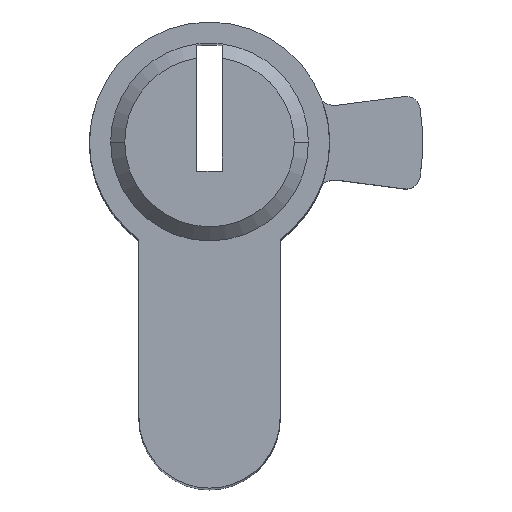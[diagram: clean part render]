
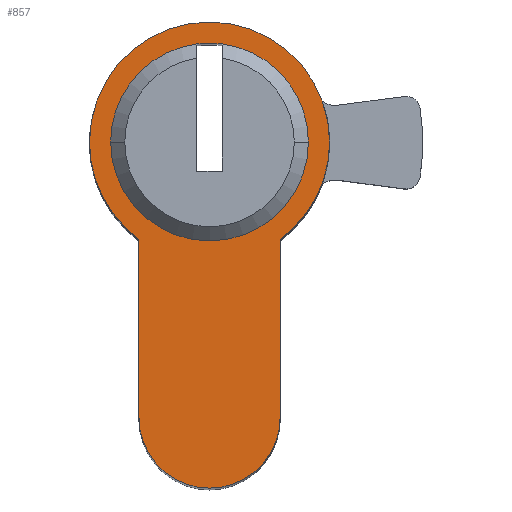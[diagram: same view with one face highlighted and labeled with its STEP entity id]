
A CAD part, top view. The second image highlights one B-rep face of the part: STEP entity #857.
In plain terms, the highlighted planar face has unit normal (0, 0, 1).
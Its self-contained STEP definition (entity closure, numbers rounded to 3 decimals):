
#6 = DIRECTION ( 'NONE',  ( 0., 0., 1. ) ) ;
#10 = LINE ( 'NONE', #448, #979 ) ;
#18 = DIRECTION ( 'NONE',  ( 0., 1., 0. ) ) ;
#34 = DIRECTION ( 'NONE',  ( 0., 0., 1. ) ) ;
#65 = VERTEX_POINT ( 'NONE', #1043 ) ;
#83 = DIRECTION ( 'NONE',  ( 0., 0., 1. ) ) ;
#97 = VERTEX_POINT ( 'NONE', #516 ) ;
#108 = CARTESIAN_POINT ( 'NONE',  ( 0., 0., 30. ) ) ;
#145 = CIRCLE ( 'NONE', #1197, 8.5 ) ;
#172 = CIRCLE ( 'NONE', #941, 7. ) ;
#201 = EDGE_CURVE ( 'NONE', #880, #1594, #1578, .T. ) ;
#222 = CARTESIAN_POINT ( 'NONE',  ( 5., -6.874, 30. ) ) ;
#235 = CARTESIAN_POINT ( 'NONE',  ( 0., 0., 30. ) ) ;
#247 = DIRECTION ( 'NONE',  ( 0., 0., 1. ) ) ;
#256 = CARTESIAN_POINT ( 'NONE',  ( 5., -19.5, 30. ) ) ;
#334 = ORIENTED_EDGE ( 'NONE', *, *, #542, .F. ) ;
#340 = ORIENTED_EDGE ( 'NONE', *, *, #555, .F. ) ;
#342 = ORIENTED_EDGE ( 'NONE', *, *, #1670, .T. ) ;
#387 = CARTESIAN_POINT ( 'NONE',  ( 0., 0., 30. ) ) ;
#390 = EDGE_CURVE ( 'NONE', #865, #1285, #431, .T. ) ;
#431 = CIRCLE ( 'NONE', #1611, 8.5 ) ;
#448 = CARTESIAN_POINT ( 'NONE',  ( 5., -19.5, 30. ) ) ;
#501 = FACE_OUTER_BOUND ( 'NONE', #1401, .T. ) ;
#516 = CARTESIAN_POINT ( 'NONE',  ( 0.9, 6.942, 30. ) ) ;
#538 = VERTEX_POINT ( 'NONE', #551 ) ;
#542 = EDGE_CURVE ( 'NONE', #1731, #538, #1196, .T. ) ;
#544 = AXIS2_PLACEMENT_3D ( 'NONE', #1467, #6, #1486 ) ;
#545 = DIRECTION ( 'NONE',  ( 0., 0., 1. ) ) ;
#547 = CIRCLE ( 'NONE', #1230, 8.5 ) ;
#551 = CARTESIAN_POINT ( 'NONE',  ( -7., 0., 30. ) ) ;
#555 = EDGE_CURVE ( 'NONE', #97, #1731, #172, .T. ) ;
#582 = CARTESIAN_POINT ( 'NONE',  ( -0.9, 6.942, 30. ) ) ;
#586 = DIRECTION ( 'NONE',  ( 1., 0., 0. ) ) ;
#631 = DIRECTION ( 'NONE',  ( 1., 0., 0. ) ) ;
#653 = CARTESIAN_POINT ( 'NONE',  ( -5., -19.5, 30. ) ) ;
#654 = ORIENTED_EDGE ( 'NONE', *, *, #956, .F. ) ;
#666 = PLANE ( 'NONE',  #1582 ) ;
#718 = AXIS2_PLACEMENT_3D ( 'NONE', #387, #950, #1585 ) ;
#734 = ORIENTED_EDGE ( 'NONE', *, *, #390, .T. ) ;
#737 = EDGE_CURVE ( 'NONE', #1285, #880, #898, .T. ) ;
#767 = DIRECTION ( 'NONE',  ( 0., 0., 1. ) ) ;
#777 = DIRECTION ( 'NONE',  ( 1., 0., 0. ) ) ;
#785 = DIRECTION ( 'NONE',  ( 0., 0., 1. ) ) ;
#789 = DIRECTION ( 'NONE',  ( 1., 0., 0. ) ) ;
#806 = DIRECTION ( 'NONE',  ( 1., 0., 0. ) ) ;
#826 = AXIS2_PLACEMENT_3D ( 'NONE', #1353, #545, #962 ) ;
#835 = CARTESIAN_POINT ( 'NONE',  ( 0., 0., 30. ) ) ;
#857 = ADVANCED_FACE ( 'NONE', ( #1728, #501 ), #666, .T. ) ;
#859 = VERTEX_POINT ( 'NONE', #222 ) ;
#865 = VERTEX_POINT ( 'NONE', #1083 ) ;
#880 = VERTEX_POINT ( 'NONE', #653 ) ;
#898 = LINE ( 'NONE', #1674, #1306 ) ;
#904 = EDGE_CURVE ( 'NONE', #1542, #865, #145, .T. ) ;
#925 = CARTESIAN_POINT ( 'NONE',  ( 0., 0., 30. ) ) ;
#941 = AXIS2_PLACEMENT_3D ( 'NONE', #835, #1129, #586 ) ;
#943 = EDGE_CURVE ( 'NONE', #65, #97, #1000, .T. ) ;
#950 = DIRECTION ( 'NONE',  ( 0., 0., 1. ) ) ;
#956 = EDGE_CURVE ( 'NONE', #538, #65, #1339, .T. ) ;
#962 = DIRECTION ( 'NONE',  ( 1., 0., 0. ) ) ;
#979 = VECTOR ( 'NONE', #18, 1000. ) ;
#1000 = CIRCLE ( 'NONE', #718, 7. ) ;
#1043 = CARTESIAN_POINT ( 'NONE',  ( 7., 0., 30. ) ) ;
#1083 = CARTESIAN_POINT ( 'NONE',  ( -8.5, 0., 30. ) ) ;
#1106 = ORIENTED_EDGE ( 'NONE', *, *, #904, .T. ) ;
#1129 = DIRECTION ( 'NONE',  ( 0., 0., 1. ) ) ;
#1157 = ORIENTED_EDGE ( 'NONE', *, *, #1570, .T. ) ;
#1196 = CIRCLE ( 'NONE', #1693, 7. ) ;
#1197 = AXIS2_PLACEMENT_3D ( 'NONE', #235, #785, #777 ) ;
#1204 = ORIENTED_EDGE ( 'NONE', *, *, #737, .T. ) ;
#1230 = AXIS2_PLACEMENT_3D ( 'NONE', #925, #247, #789 ) ;
#1237 = CARTESIAN_POINT ( 'NONE',  ( 0., 0., 30. ) ) ;
#1285 = VERTEX_POINT ( 'NONE', #1592 ) ;
#1286 = DIRECTION ( 'NONE',  ( 0., -1., 0. ) ) ;
#1306 = VECTOR ( 'NONE', #1286, 1000. ) ;
#1339 = CIRCLE ( 'NONE', #544, 7. ) ;
#1352 = CARTESIAN_POINT ( 'NONE',  ( 8.5, 0., 30. ) ) ;
#1353 = CARTESIAN_POINT ( 'NONE',  ( 0., -19.5, 30. ) ) ;
#1401 = EDGE_LOOP ( 'NONE', ( #1157, #1106, #734, #1204, #1460, #342 ) ) ;
#1416 = CARTESIAN_POINT ( 'NONE',  ( 0., 0., 30. ) ) ;
#1460 = ORIENTED_EDGE ( 'NONE', *, *, #201, .T. ) ;
#1467 = CARTESIAN_POINT ( 'NONE',  ( 0., 0., 30. ) ) ;
#1486 = DIRECTION ( 'NONE',  ( 1., 0., 0. ) ) ;
#1542 = VERTEX_POINT ( 'NONE', #1352 ) ;
#1570 = EDGE_CURVE ( 'NONE', #859, #1542, #547, .T. ) ;
#1578 = CIRCLE ( 'NONE', #826, 5. ) ;
#1582 = AXIS2_PLACEMENT_3D ( 'NONE', #108, #767, #806 ) ;
#1585 = DIRECTION ( 'NONE',  ( 1., 0., 0. ) ) ;
#1592 = CARTESIAN_POINT ( 'NONE',  ( -5., -6.874, 30. ) ) ;
#1594 = VERTEX_POINT ( 'NONE', #256 ) ;
#1611 = AXIS2_PLACEMENT_3D ( 'NONE', #1416, #83, #631 ) ;
#1634 = DIRECTION ( 'NONE',  ( 1., 0., 0. ) ) ;
#1670 = EDGE_CURVE ( 'NONE', #1594, #859, #10, .T. ) ;
#1674 = CARTESIAN_POINT ( 'NONE',  ( -5., -6.874, 30. ) ) ;
#1693 = AXIS2_PLACEMENT_3D ( 'NONE', #1237, #34, #1634 ) ;
#1728 = FACE_BOUND ( 'NONE', #1738, .T. ) ;
#1731 = VERTEX_POINT ( 'NONE', #582 ) ;
#1738 = EDGE_LOOP ( 'NONE', ( #340, #1745, #654, #334 ) ) ;
#1745 = ORIENTED_EDGE ( 'NONE', *, *, #943, .F. ) ;
